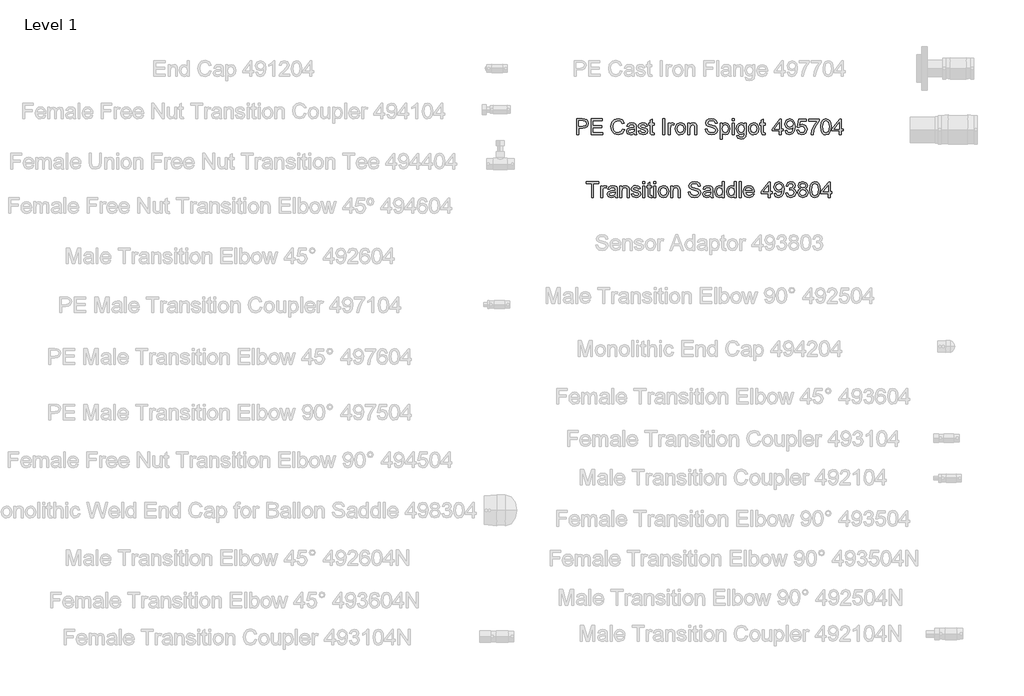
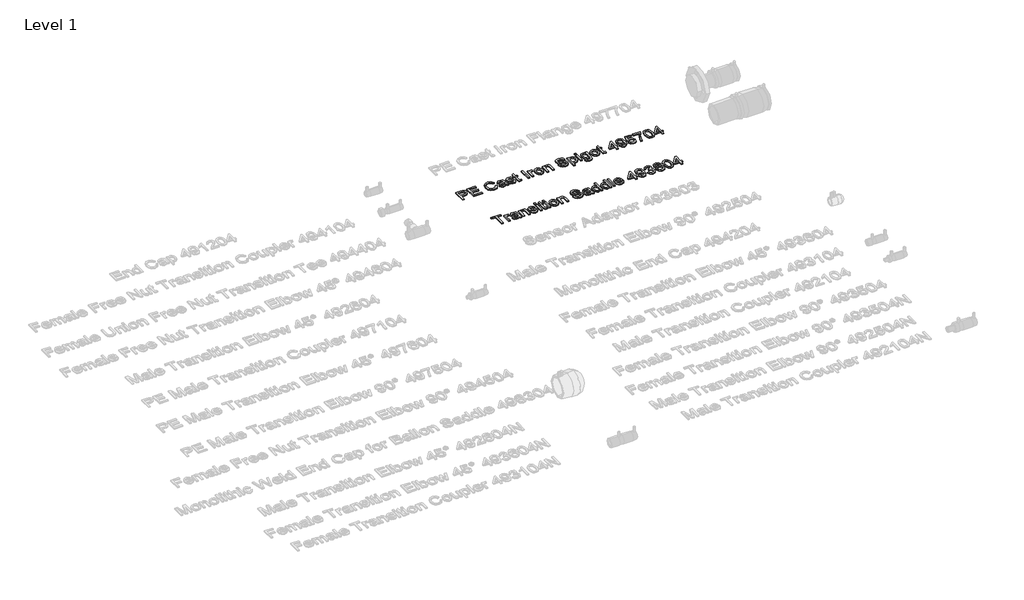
# One storey, part 31 of 38: 2 proxies.
"""IFC4 building model written with IfcOpenShell, lengths in millimetres."""

from ifc_helpers import new_model, si_unit, origin, origin_with_axes, place, context, project, spatial, polyline, outline, extrude, element, save

model = new_model("IFC4")

# Units and contexts
model_context = context("Model", 3, world=origin())
ifc_project = project(units=[si_unit("LENGTHUNIT", "METRE", prefix="MILLI")], contexts=[model_context])

# Site, building, storey
site = spatial("IfcSite", under=ifc_project)
building = spatial("IfcBuilding", under=site)
storey = spatial("IfcBuildingStorey", under=building, Name="Level 1", Elevation=0.0)

# Proxies
placement = place(None, origin())
element("IfcBuildingElementProxy", 1, Name="100 mm Arial", ObjectType="100 mm Arial", at=placement, inside=storey, context=model_context, shape_type="SweptSolid", body=[
    extrude(outline(polyline([(17622.375143, 4861.8693943), (17622.375143, 4920.9463174), (17644.2693737, 4920.9463174), (17653.0962968, 4920.3838174), (17660.2717776, 4917.6217982), (17664.9232199, 4911.9102597), (17666.6828353, 4903.8549713), (17661.9304314, 4891.0905482), (17655.265167, 4887.1746828), (17644.7741814, 4885.8693943), (17629.7597584, 4885.8693943), (17629.7597584, 4861.8693943), (17622.375143, 4861.8693943)]), holes=[polyline([(17629.7597584, 4893.2540097), (17645.2068737, 4893.2540097), (17656.0818737, 4895.9655482), (17659.2982199, 4903.5953559), (17657.4015853, 4909.7107405), (17652.4184122, 4913.0568943), (17645.0337968, 4913.561702), (17629.7597584, 4913.561702), (17629.7597584, 4893.2540097)])]), origin_with_axes(), (0.0, 0.0, 1.0), 5.0),
    extrude(outline(polyline([(17676.8366814, 4861.8693943), (17676.8366814, 4920.9463174), (17719.2982199, 4920.9463174), (17719.2982199, 4913.561702), (17684.2212968, 4913.561702), (17684.2212968, 4896.0232405), (17717.4520661, 4896.0232405), (17717.4520661, 4888.6386251), (17684.2212968, 4888.6386251), (17684.2212968, 4869.2540097), (17720.2212968, 4869.2540097), (17720.2212968, 4861.8693943), (17676.8366814, 4861.8693943)])), origin_with_axes(), (0.0, 0.0, 1.0), 5.0),
    extrude(outline(polyline([(17795.9136045, 4882.8693943), (17803.2982199, 4880.9655482), (17794.5434122, 4866.0737213), (17779.0818737, 4860.9463174), (17763.7140853, 4864.8261251), (17754.6996622, 4876.061702), (17751.6059122, 4891.8549713), (17755.1035084, 4907.9078559), (17765.0482199, 4918.3141059), (17779.2405276, 4921.8693943), (17794.031393, 4917.2684328), (17802.375143, 4904.3165097), (17794.9905276, 4902.5568943), (17788.9328353, 4911.6362213), (17778.9520661, 4914.484779), (17767.3991814, 4911.3261251), (17760.8727391, 4902.8453559), (17758.9905276, 4891.8693943), (17761.218893, 4879.1482405), (17768.156393, 4871.0208366), (17778.3462968, 4868.3309328), (17789.6467776, 4871.9943943), (17795.9136045, 4882.8693943)])), origin_with_axes(), (0.0, 0.0, 1.0), 5.0),
    extrude(outline(polyline([(17840.2212968, 4867.4078559), (17833.0602391, 4862.4030482), (17825.1491814, 4860.9463174), (17814.4256237, 4864.4511251), (17810.6828353, 4873.4078559), (17812.0962968, 4879.249202), (17815.8102391, 4883.4895866), (17820.9809122, 4885.9126636), (17827.3703353, 4887.0232405), (17840.1780276, 4889.561702), (17840.2212968, 4891.2059328), (17838.187643, 4896.6578559), (17830.0241814, 4898.7924713), (17822.5530276, 4897.3717982), (17818.9905276, 4892.3309328), (17811.6059122, 4893.2540097), (17814.8006237, 4900.4655482), (17821.2333161, 4904.6915097), (17830.9761045, 4906.1770866), (17839.9256237, 4904.8645866), (17844.9809122, 4901.5689136), (17847.2453353, 4896.5568943), (17847.6059122, 4890.0953559), (17847.6059122, 4880.9078559), (17847.9809122, 4868.078529), (17849.4520661, 4861.8693943), (17842.0674507, 4861.8693943), (17840.2212968, 4867.4078559)]), holes=[polyline([(17840.2212968, 4882.1770866), (17828.3078353, 4879.9126636), (17821.9544699, 4878.7155482), (17819.0770661, 4876.7684328), (17818.0674507, 4873.9270866), (17820.2669699, 4869.9318943), (17826.7212968, 4868.3309328), (17834.1924507, 4870.0977597), (17839.0097584, 4874.374202), (17840.1780276, 4880.0857405), (17840.2212968, 4882.1770866)])]), origin_with_axes(), (0.0, 0.0, 1.0), 5.0),
    extrude(outline(polyline([(17854.9905276, 4874.7924713), (17862.375143, 4875.7155482), (17865.7934122, 4870.234779), (17873.625143, 4868.3309328), (17881.1539891, 4870.0761251), (17883.6059122, 4874.172279), (17881.1395661, 4877.4895866), (17873.5386045, 4879.5953559), (17862.4184122, 4883.2083366), (17857.5650468, 4887.4270866), (17855.9136045, 4893.3838174), (17857.2405276, 4898.8862213), (17860.8607199, 4903.0905482), (17865.5554314, 4905.2756443), (17871.9087968, 4906.1770866), (17880.8943737, 4904.7275674), (17886.6059122, 4900.8044905), (17889.1443737, 4894.1770866), (17881.7597584, 4893.2540097), (17878.9833161, 4897.328529), (17872.4857199, 4898.7924713), (17865.4184122, 4897.3934328), (17863.2982199, 4894.1338174), (17864.1780276, 4891.984779), (17866.9328353, 4890.3549713), (17873.2934122, 4888.7828559), (17884.1323545, 4885.3068943), (17889.1660084, 4881.3693943), (17890.9905276, 4874.9511251), (17888.8487007, 4867.8838174), (17882.6684122, 4862.7564136), (17873.5241814, 4860.9463174), (17860.6443737, 4864.436702), (17854.9905276, 4874.7924713)])), origin_with_axes(), (0.0, 0.0, 1.0), 5.0),
    extrude(outline(polyline([(17914.9905276, 4868.0280482), (17915.9136045, 4861.6530482), (17910.3895661, 4860.9463174), (17904.2020661, 4862.172279), (17901.1155276, 4865.3886251), (17900.2212968, 4873.7684328), (17900.2212968, 4897.8693943), (17894.6828353, 4897.8693943), (17894.6828353, 4905.2540097), (17900.2212968, 4905.2540097), (17900.2212968, 4915.797279), (17907.6059122, 4920.1386251), (17907.6059122, 4905.2540097), (17914.9905276, 4905.2540097), (17914.9905276, 4897.8693943), (17907.6059122, 4897.8693943), (17907.6059122, 4873.984779), (17907.9953353, 4870.1770866), (17909.2573545, 4868.828529), (17911.7741814, 4868.3309328), (17914.9905276, 4868.0280482)])), origin_with_axes(), (0.0, 0.0, 1.0), 5.0),
    extrude(outline(polyline([(17947.2982199, 4861.8693943), (17947.2982199, 4920.9463174), (17954.6828353, 4920.9463174), (17954.6828353, 4861.8693943), (17947.2982199, 4861.8693943)])), origin_with_axes(), (0.0, 0.0, 1.0), 5.0),
    extrude(outline(polyline([(17968.5289891, 4861.8693943), (17968.5289891, 4905.2540097), (17974.9905276, 4905.2540097), (17974.9905276, 4898.8357405), (17979.5770661, 4904.749202), (17984.1924507, 4906.1770866), (17991.6059122, 4903.8982405), (17989.1395661, 4897.2780482), (17983.9472584, 4898.7924713), (17979.7717776, 4897.3357405), (17977.1107199, 4893.297279), (17975.9136045, 4884.672279), (17975.9136045, 4861.8693943), (17968.5289891, 4861.8693943)])), origin_with_axes(), (0.0, 0.0, 1.0), 5.0),
    extrude(outline(polyline([(17994.375143, 4883.561702), (17995.9724987, 4894.0220386), (18000.7645661, 4901.374202), (18013.7741814, 4906.1770866), (18021.5319939, 4904.7149472), (18027.7285084, 4900.328529), (18031.7904074, 4893.3639857), (18033.1443737, 4884.1674713), (18030.750143, 4871.0280482), (18023.7765853, 4863.592952), (18013.7741814, 4860.9463174), (18005.9226189, 4862.4030482), (17999.7333161, 4866.7732405), (17995.7146862, 4873.8838174), (17994.375143, 4883.561702)]), holes=[polyline([(18001.7597584, 4883.5761251), (18005.1780276, 4872.1314136), (18013.7741814, 4868.3309328), (18022.3414891, 4872.1530482), (18025.7597584, 4883.8068943), (18022.3198545, 4894.9919905), (18013.7741814, 4898.7924713), (18005.1780276, 4895.0064136), (18001.7597584, 4883.5761251)])]), origin_with_axes(), (0.0, 0.0, 1.0), 5.0),
    extrude(outline(polyline([(18041.4520661, 4861.8693943), (18041.4520661, 4905.2540097), (18048.8366814, 4905.2540097), (18048.8366814, 4899.1963174), (18054.4833161, 4904.4318943), (18062.1924507, 4906.1770866), (18069.1660084, 4904.7708366), (18073.9256237, 4901.078529), (18076.1395661, 4895.6482405), (18076.5289891, 4888.5088174), (18076.5289891, 4861.8693943), (18069.1443737, 4861.8693943), (18069.1443737, 4887.5136251), (18068.2934122, 4894.047279), (18065.2862007, 4897.5016059), (18060.2164891, 4898.7924713), (18052.2044699, 4895.8934328), (18048.8366814, 4884.8886251), (18048.8366814, 4861.8693943), (18041.4520661, 4861.8693943)])), origin_with_axes(), (0.0, 0.0, 1.0), 5.0),
    extrude(outline(polyline([(18107.9136045, 4882.1770866), (18115.2982199, 4882.1770866), (18117.6780276, 4874.7852597), (18123.4905276, 4870.1121828), (18132.3462968, 4868.3309328), (18140.062643, 4869.6794905), (18145.0458161, 4873.3862213), (18146.6828353, 4878.3405482), (18145.4568737, 4882.9487213), (18140.437643, 4886.3020866), (18129.6852391, 4889.1217982), (18118.1107199, 4892.7636251), (18111.8294699, 4898.2588174), (18109.7597584, 4905.6001636), (18112.3198545, 4913.9583366), (18119.7982199, 4919.8573751), (18130.7453353, 4921.8693943), (18142.4280276, 4919.7636251), (18150.2164891, 4913.5761251), (18153.1443737, 4904.3309328), (18145.7597584, 4904.3309328), (18141.5770661, 4911.9174713), (18131.0337968, 4914.484779), (18120.4616814, 4911.9463174), (18117.1443737, 4905.8165097), (18119.4953353, 4900.6963174), (18131.5530276, 4896.5713174), (18144.6203353, 4892.8645866), (18151.7669699, 4886.8790097), (18154.0674507, 4878.5280482), (18151.4208161, 4869.6939136), (18143.8054314, 4863.2467982), (18132.6347584, 4860.9463174), (18119.4448545, 4863.4270866), (18111.1011045, 4870.8982405), (18107.9136045, 4882.1770866)])), origin_with_axes(), (0.0, 0.0, 1.0), 5.0),
    extrude(outline(polyline([(18164.2212968, 4845.2540097), (18164.2212968, 4905.2540097), (18171.6059122, 4905.2540097), (18171.6059122, 4898.0136251), (18176.7116814, 4904.1362213), (18183.6059122, 4906.1770866), (18192.9664891, 4903.3213174), (18199.0818737, 4895.2732405), (18201.1443737, 4883.8934328), (18198.8150468, 4871.9294905), (18192.0506237, 4863.780452), (18182.7116814, 4860.9463174), (18176.2862007, 4862.842952), (18171.6059122, 4867.6386251), (18171.6059122, 4845.2540097), (18164.2212968, 4845.2540097)]), holes=[polyline([(18171.6059122, 4883.2155482), (18174.8006237, 4871.9655482), (18182.5530276, 4868.3309328), (18190.4640853, 4872.0953559), (18193.7597584, 4883.7636251), (18190.5434122, 4895.0424713), (18182.8559122, 4898.7924713), (18175.0169699, 4894.8044905), (18171.6059122, 4883.2155482)])]), origin_with_axes(), (0.0, 0.0, 1.0), 5.0),
    extrude(outline(polyline([(18209.4520661, 4913.561702), (18209.4520661, 4920.9463174), (18216.8366814, 4920.9463174), (18216.8366814, 4913.561702), (18209.4520661, 4913.561702)])), origin_with_axes(), (0.0, 0.0, 1.0), 5.0),
    extrude(outline(polyline([(18209.4520661, 4861.8693943), (18209.4520661, 4905.2540097), (18216.8366814, 4905.2540097), (18216.8366814, 4861.8693943), (18209.4520661, 4861.8693943)])), origin_with_axes(), (0.0, 0.0, 1.0), 5.0),
    extrude(outline(polyline([(18226.0674507, 4858.1770866), (18233.4520661, 4857.2540097), (18235.8462968, 4853.359779), (18243.0145661, 4851.7155482), (18250.5722584, 4853.5761251), (18254.1780276, 4858.797279), (18254.6828353, 4867.4078559), (18243.1443737, 4861.8693943), (18235.530792, 4863.4811732), (18229.8535084, 4868.3165097), (18225.1443737, 4883.7780482), (18227.2573545, 4895.2227597), (18233.3727391, 4903.3213174), (18242.7837968, 4906.1770866), (18249.3715372, 4904.561702), (18254.6828353, 4899.7155482), (18254.6828353, 4905.2540097), (18262.0674507, 4905.2540097), (18262.0674507, 4867.797279), (18260.0482199, 4853.453529), (18253.6515853, 4846.7828559), (18242.8703353, 4844.3309328), (18230.5890853, 4847.7852597), (18226.0674507, 4858.1770866)]), holes=[polyline([(18232.5289891, 4884.2828559), (18235.6804314, 4872.8525674), (18243.5914891, 4869.2540097), (18251.4881237, 4872.8309328), (18254.6828353, 4884.0665097), (18251.3943737, 4895.078529), (18243.4761045, 4898.7924713), (18235.7237007, 4895.1362213), (18232.5289891, 4884.2828559)])]), origin_with_axes(), (0.0, 0.0, 1.0), 5.0),
    extrude(outline(polyline([(18271.2982199, 4883.561702), (18272.8955757, 4894.0220386), (18277.687643, 4901.374202), (18290.6972584, 4906.1770866), (18298.4550709, 4904.7149472), (18304.6515853, 4900.328529), (18308.7134843, 4893.3639857), (18310.0674507, 4884.1674713), (18307.6732199, 4871.0280482), (18300.6996622, 4863.592952), (18290.6972584, 4860.9463174), (18282.8456959, 4862.4030482), (18276.656393, 4866.7732405), (18272.6377632, 4873.8838174), (18271.2982199, 4883.561702)]), holes=[polyline([(18278.6828353, 4883.5761251), (18282.1011045, 4872.1314136), (18290.6972584, 4868.3309328), (18299.2645661, 4872.1530482), (18302.6828353, 4883.8068943), (18299.2429314, 4894.9919905), (18290.6972584, 4898.7924713), (18282.1011045, 4895.0064136), (18278.6828353, 4883.5761251)])]), origin_with_axes(), (0.0, 0.0, 1.0), 5.0),
    extrude(outline(polyline([(18334.0674507, 4868.0280482), (18334.9905276, 4861.6530482), (18329.4664891, 4860.9463174), (18323.2789891, 4862.172279), (18320.1924507, 4865.3886251), (18319.2982199, 4873.7684328), (18319.2982199, 4897.8693943), (18313.7597584, 4897.8693943), (18313.7597584, 4905.2540097), (18319.2982199, 4905.2540097), (18319.2982199, 4915.797279), (18326.6828353, 4920.1386251), (18326.6828353, 4905.2540097), (18334.0674507, 4905.2540097), (18334.0674507, 4897.8693943), (18326.6828353, 4897.8693943), (18326.6828353, 4873.984779), (18327.0722584, 4870.1770866), (18328.3342776, 4868.828529), (18330.8511045, 4868.3309328), (18334.0674507, 4868.0280482)])), origin_with_axes(), (0.0, 0.0, 1.0), 5.0),
    extrude(outline(polyline([(18386.6828353, 4861.8693943), (18386.6828353, 4875.7155482), (18359.9136045, 4875.7155482), (18359.9136045, 4883.1001636), (18388.5289891, 4920.0232405), (18394.0674507, 4920.0232405), (18394.0674507, 4883.1001636), (18401.4520661, 4883.1001636), (18401.4520661, 4875.7155482), (18394.0674507, 4875.7155482), (18394.0674507, 4861.8693943), (18386.6828353, 4861.8693943)]), holes=[polyline([(18386.6828353, 4883.1001636), (18386.6828353, 4905.9174713), (18369.000143, 4883.1001636), (18386.6828353, 4883.1001636)])]), origin_with_axes(), (0.0, 0.0, 1.0), 5.0),
    extrude(outline(polyline([(18408.8366814, 4876.6386251), (18416.2212968, 4877.561702), (18419.5386045, 4870.516029), (18425.8270661, 4868.3309328), (18431.8054314, 4869.7371828), (18435.8583161, 4873.4943943), (18438.2741814, 4879.9126636), (18439.3414891, 4888.4799713), (18433.3919699, 4884.3261251), (18425.2934122, 4882.1770866), (18412.9544699, 4887.4270866), (18407.9136045, 4901.2588174), (18413.1996622, 4915.5376636), (18426.4472584, 4920.9463174), (18436.968893, 4917.859779), (18444.2092776, 4909.061702), (18446.6828353, 4892.5328559), (18444.2164891, 4874.5977597), (18436.8823545, 4864.436702), (18425.4809122, 4860.9463174), (18414.1299507, 4865.0641059), (18408.8366814, 4876.6386251)]), holes=[polyline([(18439.2982199, 4901.4318943), (18436.1107199, 4910.2876636), (18427.6443737, 4913.561702), (18418.7597584, 4910.0352597), (18415.2982199, 4900.8982405), (18418.5722584, 4892.7131443), (18427.4424507, 4889.561702), (18435.9592776, 4892.7131443), (18439.2982199, 4901.4318943)])]), origin_with_axes(), (0.0, 0.0, 1.0), 5.0),
    extrude(outline(polyline([(18453.1443737, 4877.561702), (18460.5289891, 4878.484779), (18464.250143, 4870.8766059), (18471.9664891, 4868.3309328), (18481.2261045, 4871.8717982), (18484.5289891, 4881.2684328), (18481.4352391, 4890.0376636), (18472.0818737, 4893.2540097), (18465.5987007, 4891.9703559), (18461.4520661, 4888.6386251), (18454.0674507, 4889.561702), (18460.5289891, 4920.0232405), (18489.1443737, 4920.0232405), (18489.1443737, 4912.6386251), (18466.500143, 4912.6386251), (18463.3414891, 4896.3693943), (18474.1443737, 4900.6386251), (18486.7717776, 4895.3453559), (18491.9136045, 4881.7299713), (18487.2837968, 4868.0280482), (18480.6347584, 4862.7167501), (18471.937643, 4860.9463174), (18458.906393, 4865.4967982), (18453.1443737, 4877.561702)])), origin_with_axes(), (0.0, 0.0, 1.0), 5.0),
    extrude(outline(polyline([(18498.375143, 4912.6386251), (18498.375143, 4920.0232405), (18537.1443737, 4920.0232405), (18537.1443737, 4914.0520866), (18526.1467776, 4898.1650674), (18517.7309122, 4877.922279), (18514.9905276, 4861.8693943), (18507.6059122, 4861.8693943), (18510.5410084, 4878.5280482), (18518.5962968, 4897.3573751), (18529.7597584, 4912.6386251), (18498.375143, 4912.6386251)])), origin_with_axes(), (0.0, 0.0, 1.0), 5.0),
    extrude(outline(polyline([(18543.6059122, 4890.9318943), (18545.7765853, 4907.9294905), (18552.2237007, 4917.7299713), (18562.9905276, 4920.9463174), (18571.6155276, 4919.0424713), (18577.5722584, 4913.5544905), (18581.0337968, 4904.8141059), (18582.375143, 4890.9318943), (18580.2261045, 4874.0064136), (18573.8006237, 4864.1842982), (18562.9905276, 4860.9463174), (18555.3174507, 4862.3525674), (18549.4905276, 4866.5713174), (18545.0770661, 4876.562904), (18543.6059122, 4890.9318943)]), holes=[polyline([(18550.9905276, 4890.9463174), (18554.4520661, 4872.6073751), (18562.9905276, 4868.3309328), (18571.5289891, 4872.6217982), (18574.9905276, 4890.9463174), (18571.6443737, 4909.0761251), (18562.9039891, 4913.561702), (18554.5674507, 4909.609779), (18550.9905276, 4890.9463174)])]), origin_with_axes(), (0.0, 0.0, 1.0), 5.0),
    extrude(outline(polyline([(18612.8366814, 4861.8693943), (18612.8366814, 4875.7155482), (18586.0674507, 4875.7155482), (18586.0674507, 4883.1001636), (18614.6828353, 4920.0232405), (18620.2212968, 4920.0232405), (18620.2212968, 4883.1001636), (18627.6059122, 4883.1001636), (18627.6059122, 4875.7155482), (18620.2212968, 4875.7155482), (18620.2212968, 4861.8693943), (18612.8366814, 4861.8693943)]), holes=[polyline([(18612.8366814, 4883.1001636), (18612.8366814, 4905.9174713), (18595.1539891, 4883.1001636), (18612.8366814, 4883.1001636)])]), origin_with_axes(), (0.0, 0.0, 1.0), 5.0),
])
element("IfcBuildingElementProxy", 2, Name="100 mm Arial", ObjectType="100 mm Arial", at=placement, inside=storey, context=model_context, shape_type="SweptSolid", body=[
    extrude(outline(polyline([(17678.6828353, 4624.7258229), (17678.6828353, 4676.4181306), (17659.2982199, 4676.4181306), (17659.2982199, 4683.802746), (17705.4520661, 4683.802746), (17705.4520661, 4676.4181306), (17686.0674507, 4676.4181306), (17686.0674507, 4624.7258229), (17678.6828353, 4624.7258229)])), origin_with_axes(), (0.0, 0.0, 1.0), 5.0),
    extrude(outline(polyline([(17712.8366814, 4624.7258229), (17712.8366814, 4668.1104383), (17719.2982199, 4668.1104383), (17719.2982199, 4661.692169), (17723.8847584, 4667.6056306), (17728.500143, 4669.0335152), (17735.9136045, 4666.754669), (17733.4472584, 4660.1344767), (17728.2549507, 4661.6488998), (17724.0794699, 4660.192169), (17721.4184122, 4656.1537075), (17720.2212968, 4647.5287075), (17720.2212968, 4624.7258229), (17712.8366814, 4624.7258229)])), origin_with_axes(), (0.0, 0.0, 1.0), 5.0),
    extrude(outline(polyline([(17768.2212968, 4630.2642844), (17761.0602391, 4625.2594767), (17753.1491814, 4623.802746), (17742.4256237, 4627.3075536), (17738.6828353, 4636.2642844), (17740.0962968, 4642.1056306), (17743.8102391, 4646.3460152), (17748.9809122, 4648.7690921), (17755.3703353, 4649.879669), (17768.1780276, 4652.4181306), (17768.2212968, 4654.0623613), (17766.187643, 4659.5142844), (17758.0241814, 4661.6488998), (17750.5530276, 4660.2282267), (17746.9905276, 4655.1873613), (17739.6059122, 4656.1104383), (17742.8006237, 4663.3219767), (17749.2333161, 4667.5479383), (17758.9761045, 4669.0335152), (17767.9256237, 4667.7210152), (17772.9809122, 4664.4253421), (17775.2453353, 4659.4133229), (17775.6059122, 4652.9517844), (17775.6059122, 4643.7642844), (17775.9809122, 4630.9349575), (17777.4520661, 4624.7258229), (17770.0674507, 4624.7258229), (17768.2212968, 4630.2642844)]), holes=[polyline([(17768.2212968, 4645.0335152), (17756.3078353, 4642.7690921), (17749.9544699, 4641.5719767), (17747.0770661, 4639.6248613), (17746.0674507, 4636.7835152), (17748.2669699, 4632.7883229), (17754.7212968, 4631.1873613), (17762.1924507, 4632.9541883), (17767.0097584, 4637.2306306), (17768.1780276, 4642.942169), (17768.2212968, 4645.0335152)])]), origin_with_axes(), (0.0, 0.0, 1.0), 5.0),
    extrude(outline(polyline([(17785.7597584, 4624.7258229), (17785.7597584, 4668.1104383), (17793.1443737, 4668.1104383), (17793.1443737, 4662.052746), (17798.7910084, 4667.2883229), (17806.500143, 4669.0335152), (17813.4737007, 4667.6272652), (17818.2333161, 4663.9349575), (17820.4472584, 4658.504669), (17820.8366814, 4651.365246), (17820.8366814, 4624.7258229), (17813.4520661, 4624.7258229), (17813.4520661, 4650.3700536), (17812.6011045, 4656.9037075), (17809.593893, 4660.3580344), (17804.5241814, 4661.6488998), (17796.5121622, 4658.7498613), (17793.1443737, 4647.7450536), (17793.1443737, 4624.7258229), (17785.7597584, 4624.7258229)])), origin_with_axes(), (0.0, 0.0, 1.0), 5.0),
    extrude(outline(polyline([(17828.2212968, 4637.6488998), (17835.6059122, 4638.5719767), (17839.0241814, 4633.0912075), (17846.8559122, 4631.1873613), (17854.3847584, 4632.9325536), (17856.8366814, 4637.0287075), (17854.3703353, 4640.3460152), (17846.7693737, 4642.4517844), (17835.6491814, 4646.0647652), (17830.7958161, 4650.2835152), (17829.1443737, 4656.240246), (17830.4712968, 4661.7426498), (17834.0914891, 4665.9469767), (17838.7862007, 4668.1320729), (17845.1395661, 4669.0335152), (17854.125143, 4667.583996), (17859.8366814, 4663.660919), (17862.375143, 4657.0335152), (17854.9905276, 4656.1104383), (17852.2140853, 4660.1849575), (17845.7164891, 4661.6488998), (17838.6491814, 4660.2498613), (17836.5289891, 4656.990246), (17837.4087968, 4654.8412075), (17840.1636045, 4653.2113998), (17846.5241814, 4651.6392844), (17857.3631237, 4648.1633229), (17862.3967776, 4644.2258229), (17864.2212968, 4637.8075536), (17862.0794699, 4630.740246), (17855.8991814, 4625.6128421), (17846.7549507, 4623.802746), (17833.875143, 4627.2931306), (17828.2212968, 4637.6488998)])), origin_with_axes(), (0.0, 0.0, 1.0), 5.0),
    extrude(outline(polyline([(17872.5289891, 4676.4181306), (17872.5289891, 4683.802746), (17879.9136045, 4683.802746), (17879.9136045, 4676.4181306), (17872.5289891, 4676.4181306)])), origin_with_axes(), (0.0, 0.0, 1.0), 5.0),
    extrude(outline(polyline([(17872.5289891, 4624.7258229), (17872.5289891, 4668.1104383), (17879.9136045, 4668.1104383), (17879.9136045, 4624.7258229), (17872.5289891, 4624.7258229)])), origin_with_axes(), (0.0, 0.0, 1.0), 5.0),
    extrude(outline(polyline([(17906.6828353, 4630.8844767), (17907.6059122, 4624.5094767), (17902.0818737, 4623.802746), (17895.8943737, 4625.0287075), (17892.8078353, 4628.2450536), (17891.9136045, 4636.6248613), (17891.9136045, 4660.7258229), (17886.375143, 4660.7258229), (17886.375143, 4668.1104383), (17891.9136045, 4668.1104383), (17891.9136045, 4678.6537075), (17899.2982199, 4682.9950536), (17899.2982199, 4668.1104383), (17906.6828353, 4668.1104383), (17906.6828353, 4660.7258229), (17899.2982199, 4660.7258229), (17899.2982199, 4636.8412075), (17899.687643, 4633.0335152), (17900.9496622, 4631.6849575), (17903.4664891, 4631.1873613), (17906.6828353, 4630.8844767)])), origin_with_axes(), (0.0, 0.0, 1.0), 5.0),
    extrude(outline(polyline([(17914.0674507, 4676.4181306), (17914.0674507, 4683.802746), (17921.4520661, 4683.802746), (17921.4520661, 4676.4181306), (17914.0674507, 4676.4181306)])), origin_with_axes(), (0.0, 0.0, 1.0), 5.0),
    extrude(outline(polyline([(17914.0674507, 4624.7258229), (17914.0674507, 4668.1104383), (17921.4520661, 4668.1104383), (17921.4520661, 4624.7258229), (17914.0674507, 4624.7258229)])), origin_with_axes(), (0.0, 0.0, 1.0), 5.0),
    extrude(outline(polyline([(17930.6828353, 4646.4181306), (17932.2801911, 4656.8784671), (17937.0722584, 4664.2306306), (17950.0818737, 4669.0335152), (17957.8396862, 4667.5713758), (17964.0362007, 4663.1849575), (17968.0980997, 4656.2204142), (17969.4520661, 4647.0238998), (17967.0578353, 4633.8844767), (17960.0842776, 4626.4493806), (17950.0818737, 4623.802746), (17942.2303112, 4625.2594767), (17936.0410084, 4629.629669), (17932.0223786, 4636.740246), (17930.6828353, 4646.4181306)]), holes=[polyline([(17938.0674507, 4646.4325536), (17941.4857199, 4634.9878421), (17950.0818737, 4631.1873613), (17958.6491814, 4635.0094767), (17962.0674507, 4646.6633229), (17958.6275468, 4657.848419), (17950.0818737, 4661.6488998), (17941.4857199, 4657.8628421), (17938.0674507, 4646.4325536)])]), origin_with_axes(), (0.0, 0.0, 1.0), 5.0),
    extrude(outline(polyline([(17977.7597584, 4624.7258229), (17977.7597584, 4668.1104383), (17985.1443737, 4668.1104383), (17985.1443737, 4662.052746), (17990.7910084, 4667.2883229), (17998.500143, 4669.0335152), (18005.4737007, 4667.6272652), (18010.2333161, 4663.9349575), (18012.4472584, 4658.504669), (18012.8366814, 4651.365246), (18012.8366814, 4624.7258229), (18005.4520661, 4624.7258229), (18005.4520661, 4650.3700536), (18004.6011045, 4656.9037075), (18001.593893, 4660.3580344), (17996.5241814, 4661.6488998), (17988.5121622, 4658.7498613), (17985.1443737, 4647.7450536), (17985.1443737, 4624.7258229), (17977.7597584, 4624.7258229)])), origin_with_axes(), (0.0, 0.0, 1.0), 5.0),
    extrude(outline(polyline([(18044.2212968, 4645.0335152), (18051.6059122, 4645.0335152), (18053.9857199, 4637.6416883), (18059.7982199, 4632.9686113), (18068.6539891, 4631.1873613), (18076.3703353, 4632.535919), (18081.3535084, 4636.2426498), (18082.9905276, 4641.1969767), (18081.7645661, 4645.8051498), (18076.7453353, 4649.1585152), (18065.9929314, 4651.9782267), (18054.4184122, 4655.6200536), (18048.1371622, 4661.115246), (18046.0674507, 4668.4565921), (18048.6275468, 4676.8147652), (18056.1059122, 4682.7138036), (18067.0530276, 4684.7258229), (18078.7357199, 4682.6200536), (18086.5241814, 4676.4325536), (18089.4520661, 4667.1873613), (18082.0674507, 4667.1873613), (18077.8847584, 4674.7738998), (18067.3414891, 4677.3412075), (18056.7693737, 4674.802746), (18053.4520661, 4668.6729383), (18055.8030276, 4663.552746), (18067.8607199, 4659.427746), (18080.9280276, 4655.7210152), (18088.0746622, 4649.7354383), (18090.375143, 4641.3844767), (18087.7285084, 4632.5503421), (18080.1131237, 4626.1032267), (18068.9424507, 4623.802746), (18055.7525468, 4626.2835152), (18047.4087968, 4633.754669), (18044.2212968, 4645.0335152)])), origin_with_axes(), (0.0, 0.0, 1.0), 5.0),
    extrude(outline(polyline([(18128.2212968, 4630.2642844), (18121.0602391, 4625.2594767), (18113.1491814, 4623.802746), (18102.4256237, 4627.3075536), (18098.6828353, 4636.2642844), (18100.0962968, 4642.1056306), (18103.8102391, 4646.3460152), (18108.9809122, 4648.7690921), (18115.3703353, 4649.879669), (18128.1780276, 4652.4181306), (18128.2212968, 4654.0623613), (18126.187643, 4659.5142844), (18118.0241814, 4661.6488998), (18110.5530276, 4660.2282267), (18106.9905276, 4655.1873613), (18099.6059122, 4656.1104383), (18102.8006237, 4663.3219767), (18109.2333161, 4667.5479383), (18118.9761045, 4669.0335152), (18127.9256237, 4667.7210152), (18132.9809122, 4664.4253421), (18135.2453353, 4659.4133229), (18135.6059122, 4652.9517844), (18135.6059122, 4643.7642844), (18135.9809122, 4630.9349575), (18137.4520661, 4624.7258229), (18130.0674507, 4624.7258229), (18128.2212968, 4630.2642844)]), holes=[polyline([(18128.2212968, 4645.0335152), (18116.3078353, 4642.7690921), (18109.9544699, 4641.5719767), (18107.0770661, 4639.6248613), (18106.0674507, 4636.7835152), (18108.2669699, 4632.7883229), (18114.7212968, 4631.1873613), (18122.1924507, 4632.9541883), (18127.0097584, 4637.2306306), (18128.1780276, 4642.942169), (18128.2212968, 4645.0335152)])]), origin_with_axes(), (0.0, 0.0, 1.0), 5.0),
    extrude(outline(polyline([(18172.5289891, 4624.7258229), (18172.5289891, 4631.692169), (18167.6431718, 4625.7751017), (18160.8895661, 4623.802746), (18151.7453353, 4626.6585152), (18145.2837968, 4634.6272652), (18142.9905276, 4646.3748613), (18145.1035084, 4658.129669), (18151.4352391, 4666.2210152), (18160.8607199, 4669.0335152), (18167.6684122, 4667.021496), (18172.5289891, 4661.7931306), (18172.5289891, 4683.802746), (18179.9136045, 4683.802746), (18179.9136045, 4624.7258229), (18172.5289891, 4624.7258229)]), holes=[polyline([(18150.375143, 4646.4037075), (18153.7068737, 4634.973419), (18161.5674507, 4631.1873613), (18169.3342776, 4634.8003421), (18172.5289891, 4645.8412075), (18169.2765853, 4657.8267844), (18161.2645661, 4661.6488998), (18153.4905276, 4657.9782267), (18150.375143, 4646.4037075)])]), origin_with_axes(), (0.0, 0.0, 1.0), 5.0),
    extrude(outline(polyline([(18217.7597584, 4624.7258229), (18217.7597584, 4631.692169), (18212.8739411, 4625.7751017), (18206.1203353, 4623.802746), (18196.9761045, 4626.6585152), (18190.5145661, 4634.6272652), (18188.2212968, 4646.3748613), (18190.3342776, 4658.129669), (18196.6660084, 4666.2210152), (18206.0914891, 4669.0335152), (18212.8991814, 4667.021496), (18217.7597584, 4661.7931306), (18217.7597584, 4683.802746), (18225.1443737, 4683.802746), (18225.1443737, 4624.7258229), (18217.7597584, 4624.7258229)]), holes=[polyline([(18195.6059122, 4646.4037075), (18198.937643, 4634.973419), (18206.7982199, 4631.1873613), (18214.5650468, 4634.8003421), (18217.7597584, 4645.8412075), (18214.5073545, 4657.8267844), (18206.4953353, 4661.6488998), (18198.7212968, 4657.9782267), (18195.6059122, 4646.4037075)])]), origin_with_axes(), (0.0, 0.0, 1.0), 5.0),
    extrude(outline(polyline([(18236.2212968, 4624.7258229), (18236.2212968, 4683.802746), (18243.6059122, 4683.802746), (18243.6059122, 4624.7258229), (18236.2212968, 4624.7258229)])), origin_with_axes(), (0.0, 0.0, 1.0), 5.0),
    extrude(outline(polyline([(18285.0578353, 4637.6488998), (18292.2982199, 4636.7258229), (18285.5265853, 4627.192169), (18272.9136045, 4623.802746), (18264.2489411, 4625.2648854), (18257.5818737, 4629.6513036), (18253.3306718, 4636.677145), (18251.9136045, 4646.0575536), (18253.3450949, 4655.7534671), (18257.6395661, 4663.004669), (18264.2164891, 4667.5263036), (18272.4953353, 4669.0335152), (18280.5163689, 4667.5299094), (18286.9256237, 4663.0190921), (18291.1281478, 4655.7823133), (18292.5289891, 4646.1008229), (18292.4857199, 4644.1104383), (18259.2982199, 4644.1104383), (18263.5458161, 4634.5190921), (18273.0578353, 4631.1873613), (18280.2982199, 4632.7306306), (18285.0578353, 4637.6488998)]), holes=[polyline([(18259.2982199, 4651.4950536), (18285.1443737, 4651.4950536), (18282.187643, 4658.1873613), (18272.4664891, 4661.6488998), (18263.3727391, 4658.8868806), (18259.2982199, 4651.4950536)])]), origin_with_axes(), (0.0, 0.0, 1.0), 5.0),
    extrude(outline(polyline([(18345.1443737, 4624.7258229), (18345.1443737, 4638.5719767), (18318.375143, 4638.5719767), (18318.375143, 4645.9565921), (18346.9905276, 4682.879669), (18352.5289891, 4682.879669), (18352.5289891, 4645.9565921), (18359.9136045, 4645.9565921), (18359.9136045, 4638.5719767), (18352.5289891, 4638.5719767), (18352.5289891, 4624.7258229), (18345.1443737, 4624.7258229)]), holes=[polyline([(18345.1443737, 4645.9565921), (18345.1443737, 4668.7738998), (18327.4616814, 4645.9565921), (18345.1443737, 4645.9565921)])]), origin_with_axes(), (0.0, 0.0, 1.0), 5.0),
    extrude(outline(polyline([(18367.2982199, 4639.4950536), (18374.6828353, 4640.4181306), (18378.000143, 4633.3724575), (18384.2886045, 4631.1873613), (18390.2669699, 4632.5936113), (18394.3198545, 4636.3508229), (18396.7357199, 4642.7690921), (18397.8030276, 4651.3363998), (18391.8535084, 4647.1825536), (18383.7549507, 4645.0335152), (18371.4160084, 4650.2835152), (18366.375143, 4664.115246), (18371.6612007, 4678.3940921), (18384.9087968, 4683.802746), (18395.4304314, 4680.7162075), (18402.6708161, 4671.9181306), (18405.1443737, 4655.3892844), (18402.6780276, 4637.4541883), (18395.343893, 4627.2931306), (18383.9424507, 4623.802746), (18372.5914891, 4627.9205344), (18367.2982199, 4639.4950536)]), holes=[polyline([(18397.7597584, 4664.2883229), (18394.5722584, 4673.1440921), (18386.1059122, 4676.4181306), (18377.2212968, 4672.8916883), (18373.7597584, 4663.754669), (18377.0337968, 4655.5695729), (18385.9039891, 4652.4181306), (18394.4208161, 4655.5695729), (18397.7597584, 4664.2883229)])]), origin_with_axes(), (0.0, 0.0, 1.0), 5.0),
    extrude(outline(polyline([(18411.6059122, 4640.4181306), (18418.9905276, 4641.3412075), (18423.0650468, 4633.567169), (18430.687643, 4631.1873613), (18439.6587968, 4634.4613998), (18442.9905276, 4642.567169), (18439.687643, 4650.2041883), (18431.2934122, 4653.2258229), (18426.1155276, 4652.4181306), (18426.937643, 4659.802746), (18436.500143, 4661.8363998), (18440.2212968, 4668.3556306), (18437.5241814, 4674.1320729), (18430.5722584, 4676.4181306), (18423.5337968, 4674.1104383), (18419.9136045, 4667.1873613), (18412.5289891, 4668.1104383), (18418.5722584, 4679.692169), (18430.312643, 4683.802746), (18439.218893, 4681.7763036), (18445.4496622, 4676.2378421), (18447.6059122, 4668.7883229), (18445.5578353, 4661.9806306), (18439.500143, 4657.0912075), (18447.5482199, 4652.0431306), (18450.375143, 4642.4373613), (18444.7212968, 4629.2258229), (18430.4280276, 4623.802746), (18417.4761045, 4628.4325536), (18411.6059122, 4640.4181306)])), origin_with_axes(), (0.0, 0.0, 1.0), 5.0),
    extrude(outline(polyline([(18467.5962968, 4657.2642844), (18460.8679314, 4661.8508229), (18458.6828353, 4668.990246), (18463.4424507, 4679.5335152), (18476.1203353, 4683.802746), (18488.9136045, 4679.4325536), (18493.7597584, 4668.7883229), (18491.6035084, 4661.8291883), (18485.062643, 4657.2642844), (18492.9160084, 4651.473419), (18495.6059122, 4641.9181306), (18490.2693737, 4629.0238998), (18476.2212968, 4623.802746), (18462.1732199, 4629.0455344), (18456.8366814, 4642.1200536), (18459.6347584, 4651.8988998), (18467.5962968, 4657.2642844)]), holes=[polyline([(18466.0674507, 4668.7738998), (18468.6852391, 4662.9758229), (18476.3078353, 4660.7258229), (18483.7789891, 4662.9613998), (18486.375143, 4668.442169), (18483.6924507, 4674.1176498), (18476.2212968, 4676.4181306), (18468.7285084, 4674.1681306), (18466.0674507, 4668.7738998)]), polyline([(18464.2212968, 4642.379669), (18465.4544699, 4636.8195729), (18469.8174507, 4632.6585152), (18476.2789891, 4631.1873613), (18485.0770661, 4634.2811113), (18488.2212968, 4642.1488998), (18484.9761045, 4650.1681306), (18476.0337968, 4653.3412075), (18467.343893, 4650.2113998), (18464.2212968, 4642.379669)])]), origin_with_axes(), (0.0, 0.0, 1.0), 5.0),
    extrude(outline(polyline([(18502.0674507, 4653.7883229), (18504.2381237, 4670.785919), (18510.6852391, 4680.5863998), (18521.4520661, 4683.802746), (18530.0770661, 4681.8988998), (18536.0337968, 4676.410919), (18539.4953353, 4667.6705344), (18540.8366814, 4653.7883229), (18538.687643, 4636.8628421), (18532.2621622, 4627.0407267), (18521.4520661, 4623.802746), (18513.7789891, 4625.208996), (18507.9520661, 4629.427746), (18503.5386045, 4639.4193325), (18502.0674507, 4653.7883229)]), holes=[polyline([(18509.4520661, 4653.802746), (18512.9136045, 4635.4638036), (18521.4520661, 4631.1873613), (18529.9905276, 4635.4782267), (18533.4520661, 4653.802746), (18530.1059122, 4671.9325536), (18521.3655276, 4676.4181306), (18513.0289891, 4672.4662075), (18509.4520661, 4653.802746)])]), origin_with_axes(), (0.0, 0.0, 1.0), 5.0),
    extrude(outline(polyline([(18571.2982199, 4624.7258229), (18571.2982199, 4638.5719767), (18544.5289891, 4638.5719767), (18544.5289891, 4645.9565921), (18573.1443737, 4682.879669), (18578.6828353, 4682.879669), (18578.6828353, 4645.9565921), (18586.0674507, 4645.9565921), (18586.0674507, 4638.5719767), (18578.6828353, 4638.5719767), (18578.6828353, 4624.7258229), (18571.2982199, 4624.7258229)]), holes=[polyline([(18571.2982199, 4645.9565921), (18571.2982199, 4668.7738998), (18553.6155276, 4645.9565921), (18571.2982199, 4645.9565921)])]), origin_with_axes(), (0.0, 0.0, 1.0), 5.0),
])

save(model, "model.ifc")
